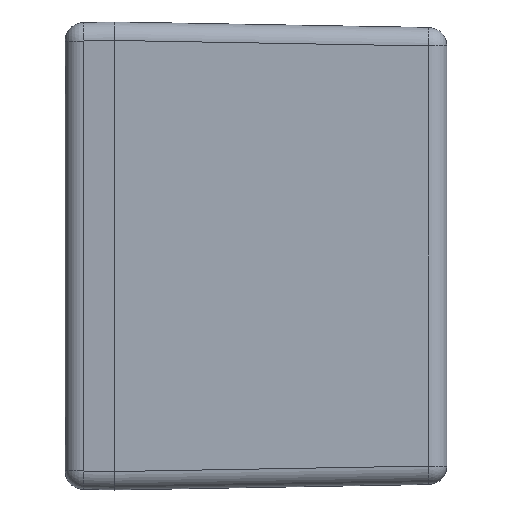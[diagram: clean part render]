
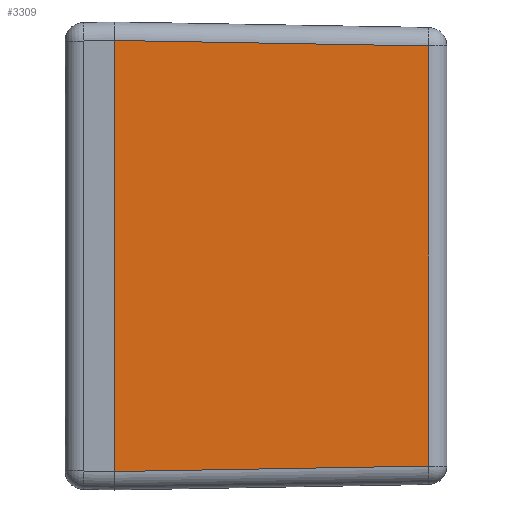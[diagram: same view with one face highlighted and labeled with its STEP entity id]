
A CAD part, left-side view. The second image highlights one B-rep face of the part: STEP entity #3309.
In plain terms, the highlighted planar face has unit normal (-1, -0.018, 0) as drawn and (-1, 0, -0.017) by its records, which use the part's own axes.
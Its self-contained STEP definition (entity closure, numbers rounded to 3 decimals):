
#206=LINE('',#5145,#478);
#208=LINE('',#5148,#480);
#215=LINE('',#5164,#487);
#233=LINE('',#5206,#505);
#478=VECTOR('',#4151,25.534);
#480=VECTOR('',#4155,34.109);
#487=VECTOR('',#4172,25.534);
#505=VECTOR('',#4226,35.);
#747=PLANE('',#3600);
#904=FACE_OUTER_BOUND('',#1119,.T.);
#1119=EDGE_LOOP('',(#2518,#2519,#2520,#2521));
#1490=VERTEX_POINT('',#5102);
#1496=VERTEX_POINT('',#5116);
#1505=VERTEX_POINT('',#5143);
#1508=VERTEX_POINT('',#5160);
#1850=EDGE_CURVE('',#1505,#1496,#206,.T.);
#1852=EDGE_CURVE('',#1496,#1490,#208,.T.);
#1861=EDGE_CURVE('',#1490,#1508,#215,.T.);
#1881=EDGE_CURVE('',#1505,#1508,#233,.T.);
#2518=ORIENTED_EDGE('',*,*,#1850,.F.);
#2519=ORIENTED_EDGE('',*,*,#1881,.T.);
#2520=ORIENTED_EDGE('',*,*,#1861,.F.);
#2521=ORIENTED_EDGE('',*,*,#1852,.F.);
#3309=ADVANCED_FACE('',(#904),#747,.T.);
#3600=AXIS2_PLACEMENT_3D('',#5205,#4224,#4225);
#4151=DIRECTION('',(0.017,0.017,-1.));
#4155=DIRECTION('',(0.,1.,0.));
#4172=DIRECTION('',(-0.017,0.017,1.));
#4224=DIRECTION('center_axis',(-1.,0.,-0.017));
#4225=DIRECTION('ref_axis',(0.,1.,0.));
#4226=DIRECTION('',(0.,1.,0.));
#5102=CARTESIAN_POINT('',(-25.804,17.055,-25.526));
#5116=CARTESIAN_POINT('',(-25.804,-17.055,-25.526));
#5143=CARTESIAN_POINT('',(-26.25,-17.5,0.));
#5145=CARTESIAN_POINT('',(-26.244,-17.494,-0.369));
#5148=CARTESIAN_POINT('',(-25.804,0.,-25.526));
#5160=CARTESIAN_POINT('',(-26.25,17.5,0.));
#5164=CARTESIAN_POINT('',(-26.244,17.494,-0.369));
#5205=CARTESIAN_POINT('Origin',(-26.25,0.,0.));
#5206=CARTESIAN_POINT('',(-26.25,-19.,0.));
